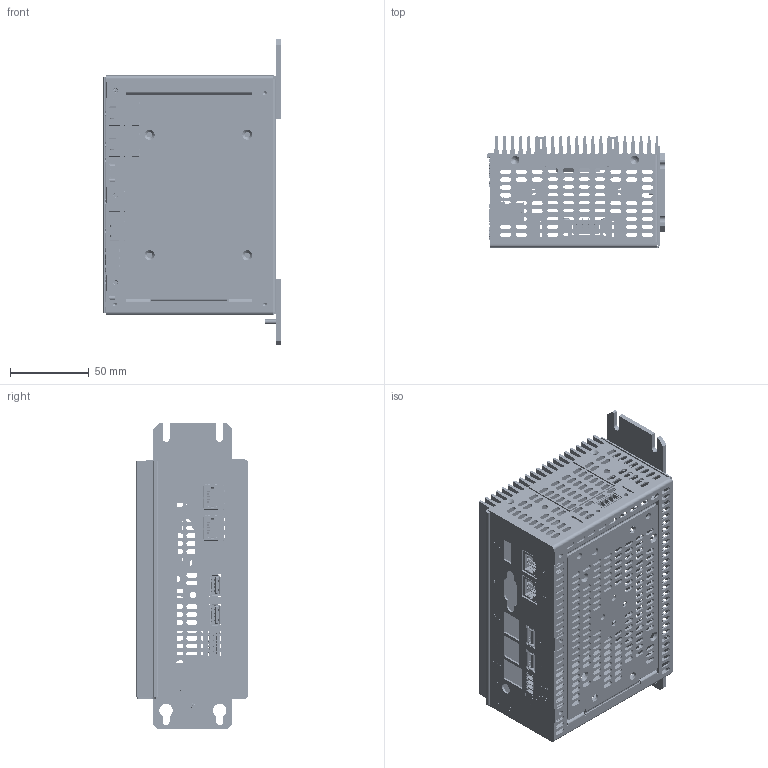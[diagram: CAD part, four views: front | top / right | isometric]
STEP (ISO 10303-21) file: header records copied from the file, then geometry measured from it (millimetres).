
FILE_DESCRIPTION (( 'STEP AP214' ), '1' );
FILE_NAME ('_PC521-K_(01-310-521-K)_für Homepage.STEP', '2018-07-06T06:51:19', ( 'SIGMATEK GmbH & Co KG' ), ( 'SIGMATEK GmbH & Co KG' ), 'SwSTEP 2.0', 'SolidWorks 2017', '' );
FILE_SCHEMA (( 'AUTOMOTIVE_DESIGN' ));
Length unit declared in the file: millimetre
Products named in the file (60): RM1-C110_2_05__DIM_1_5-2; ZM1822-4378-10 Halteblech oben; RT7-P110; RM1-C110_0_8__DIM_1_5-2; fh_m3_10; 137601_v13_nur Buchsen; RM1-C110_2_05__DIM_1_5-1; BOHR-FP_NDK3_55MM_PAD4_61X6_62MM_3VIA_BOHR-FP_NDK3_55MM_PAD4_61X6_62MM_3VIAS; RM1-C110_0_8__DIM_1_5-1; ZM1822-4379-10 Halteblech unten; TRENNBOHRUNG_2MM_4X1_3X0_4_VERSETZT_BOHRTRENN; RM1-C110_2_05__DIM_1_5; ZM1822-4483-10 Front PC521-K; RM1-C110_0_8__DIM_1_5; fh_m3_6; 7327771079_sbc-210_asm-0429_nur Buchsen; 0603_CAPKER_S_82P_50V_5__C0G_0603; RT7-P130; s_m3_1; 137701_v15; 4110251205 4pol.Minicombicon-Grundgehäuse RM3,5 1937512; RT7-P140; 3030261306 Rivscrew 3,5 01722-03507; 4080225518 USB-A_SINGLE_90_FCI-87520-0010_THR; RT1-C120-1; ZM1822-4481-10 Gehäuse PC521-K_ohne Einpresselemente; 4110251184 4pol.Mini-Combicon Grundgeh. RM3,81 1803293; RT7-C120_FINAL-4; ZM1822-4481-10 Gehäuse PC521-K; ZUGENTLASTUNG_R_ZUGENTLASTUNG; SMDREF_1_2_SMDREF_1_2; RT7-C120_FINAL-3; ZM1822-4485-10 K黨lk鰎per PC521-K; LOETPAD-2_150X50_LOETPAD-2_150X50; ZM1822-4484-10 Befestigungswinkel 137600 PC521-K; RT7-C120_FINAL-2; ZM1822-4584-10 Befestigunswinkel f Versorgung; RT7-C120_FINAL-1; _PC521-K_(01-310-521-K)_f黵 Homepage; EMPL-G201_daughter-board_with pcb terminal_nur Buchsen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
Assembly tree (61 placements, depth 4):
  BOHR-FP_NDK3_55MM_PAD4_61X6_62MM_3VIA_BOHR-FP_NDK3_55MM_PAD4_61X6_62MM_3VIAS
  TRENNBOHRUNG_2MM_4X1_3X0_4_VERSETZT_BOHRTRENN
  0603_CAPKER_S_82P_50V_5__C0G_0603
  ZUGENTLASTUNG_R_ZUGENTLASTUNG
  SMDREF_1_2_SMDREF_1_2
Bounding box: 112.6 x 70.9 x 194.82 mm (x, y, z)
Volume: 265002.1 mm3; surface area: 238657.5 mm2
Topology: 83 solids, 84 shells, 9910 faces, 27805 edges, 18190 vertices
Faces by surface type: plane 5146, cylinder 3102, bspline 1518, cone 124, torus 20
Full cylindrical faces by diameter (mm): 0.2 x1
Entity records: 958659 total; most frequent: CARTESIAN_POINT 209117, ORIENTED_EDGE 127728, DIRECTION 100823, EDGE_CURVE 63912, LINE 45977, VECTOR 45977, VERTEX_POINT 41645, AXIS2_PLACEMENT_3D 27423
